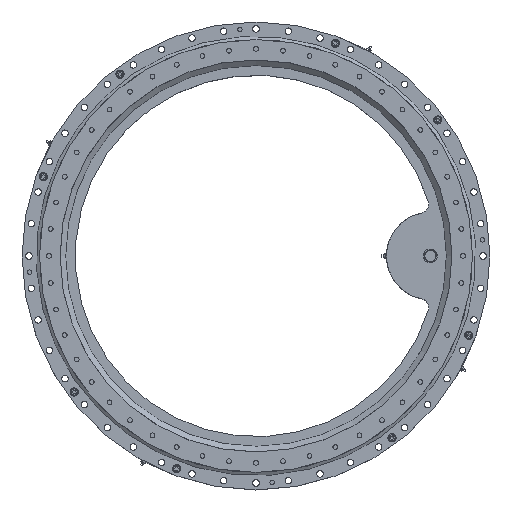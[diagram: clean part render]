
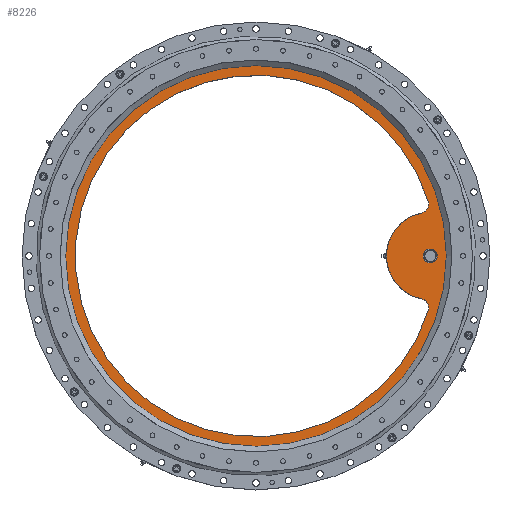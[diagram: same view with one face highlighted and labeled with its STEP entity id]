
A CAD part, top view. The second image highlights one B-rep face of the part: STEP entity #8226.
In plain terms, the highlighted planar face has unit normal (0, 0, 1).
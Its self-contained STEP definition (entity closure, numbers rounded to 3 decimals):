
#60=PLANE('',#8884);
#341=FACE_BOUND('',#1167,.T.);
#342=FACE_BOUND('',#1168,.T.);
#656=FACE_OUTER_BOUND('',#1166,.T.);
#1166=EDGE_LOOP('',(#5990));
#1167=EDGE_LOOP('',(#5991));
#1168=EDGE_LOOP('',(#5992,#5993,#5994,#5995));
#2851=CIRCLE('',#8690,95.);
#2853=CIRCLE('',#8693,392.);
#2985=CIRCLE('',#8882,20.);
#2987=CIRCLE('',#8885,414.);
#2988=CIRCLE('',#8886,13.);
#2989=CIRCLE('',#8887,20.);
#3495=VERTEX_POINT('',#12347);
#3496=VERTEX_POINT('',#12349);
#3501=VERTEX_POINT('',#12538);
#3502=VERTEX_POINT('',#12539);
#3633=VERTEX_POINT('',#12917);
#3634=VERTEX_POINT('',#12919);
#4395=EDGE_CURVE('',#3495,#3496,#2851,.T.);
#4401=EDGE_CURVE('',#3501,#3502,#2853,.T.);
#4588=EDGE_CURVE('',#3495,#3502,#2985,.T.);
#4590=EDGE_CURVE('',#3633,#3633,#2987,.T.);
#4591=EDGE_CURVE('',#3634,#3634,#2988,.T.);
#4592=EDGE_CURVE('',#3501,#3496,#2989,.T.);
#5990=ORIENTED_EDGE('',*,*,#4590,.T.);
#5991=ORIENTED_EDGE('',*,*,#4591,.T.);
#5992=ORIENTED_EDGE('',*,*,#4401,.F.);
#5993=ORIENTED_EDGE('',*,*,#4592,.T.);
#5994=ORIENTED_EDGE('',*,*,#4395,.F.);
#5995=ORIENTED_EDGE('',*,*,#4588,.T.);
#8226=ADVANCED_FACE('',(#656,#341,#342),#60,.T.);
#8690=AXIS2_PLACEMENT_3D('',#12350,#9725,#9726);
#8693=AXIS2_PLACEMENT_3D('',#12540,#9733,#9734);
#8882=AXIS2_PLACEMENT_3D('',#12914,#10166,#10167);
#8884=AXIS2_PLACEMENT_3D('',#12916,#10170,#10171);
#8885=AXIS2_PLACEMENT_3D('',#12918,#10172,#10173);
#8886=AXIS2_PLACEMENT_3D('',#12920,#10174,#10175);
#8887=AXIS2_PLACEMENT_3D('',#12921,#10176,#10177);
#9725=DIRECTION('center_axis',(0.,0.,-1.));
#9726=DIRECTION('ref_axis',(1.,0.,0.));
#9733=DIRECTION('center_axis',(0.,0.,1.));
#9734=DIRECTION('ref_axis',(1.,0.,0.));
#10166=DIRECTION('center_axis',(0.,0.,-1.));
#10167=DIRECTION('ref_axis',(1.,0.,0.));
#10170=DIRECTION('center_axis',(0.,0.,1.));
#10171=DIRECTION('ref_axis',(1.,0.,0.));
#10172=DIRECTION('center_axis',(0.,0.,1.));
#10173=DIRECTION('ref_axis',(1.,0.,0.));
#10174=DIRECTION('center_axis',(0.,0.,-1.));
#10175=DIRECTION('ref_axis',(-1.,0.,0.));
#10176=DIRECTION('center_axis',(0.,0.,-1.));
#10177=DIRECTION('ref_axis',(1.,0.,0.));
#12347=CARTESIAN_POINT('',(384.065,-91.328,469.578));
#12349=CARTESIAN_POINT('',(384.065,94.682,469.578));
#12350=CARTESIAN_POINT('Origin',(403.433,1.677,469.578));
#12538=CARTESIAN_POINT('',(399.049,120.315,469.578));
#12539=CARTESIAN_POINT('',(399.049,-116.961,469.578));
#12540=CARTESIAN_POINT('Origin',(25.433,1.677,469.578));
#12914=CARTESIAN_POINT('Origin',(379.987,-110.908,469.578));
#12916=CARTESIAN_POINT('Origin',(25.433,1.677,469.578));
#12917=CARTESIAN_POINT('',(-388.567,1.677,469.578));
#12918=CARTESIAN_POINT('Origin',(25.433,1.677,469.578));
#12919=CARTESIAN_POINT('',(416.433,1.677,469.578));
#12920=CARTESIAN_POINT('Origin',(403.433,1.677,469.578));
#12921=CARTESIAN_POINT('Origin',(379.987,114.262,469.578));
